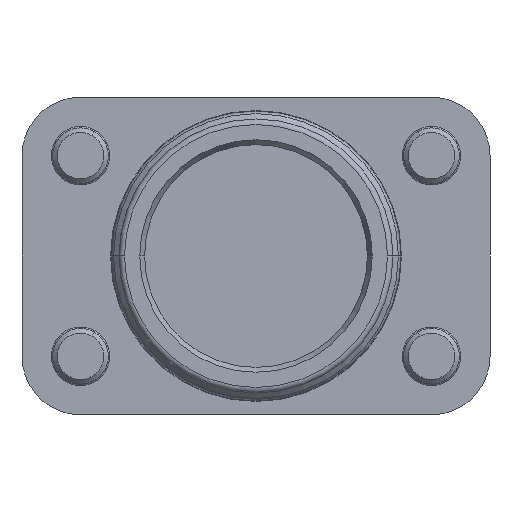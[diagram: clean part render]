
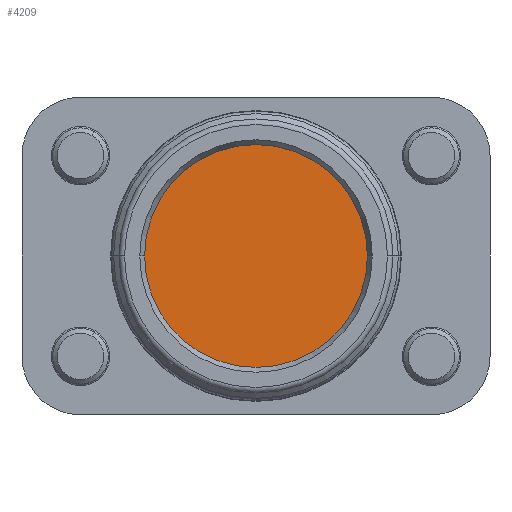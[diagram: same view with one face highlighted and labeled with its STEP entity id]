
A CAD part, front view. The second image highlights one B-rep face of the part: STEP entity #4209.
In plain terms, the highlighted planar face has unit normal (0, -1, 0).
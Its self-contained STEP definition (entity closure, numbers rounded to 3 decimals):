
#2906 = VERTEX_POINT ( 'NONE', #9136 ) ;
#3842 = ORIENTED_EDGE ( 'NONE', *, *, #10287, .T. ) ;
#4209 = ADVANCED_FACE ( 'NONE', ( #10279 ), #11617, .T. ) ;
#4325 = ORIENTED_EDGE ( 'NONE', *, *, #6699, .T. ) ;
#4464 = AXIS2_PLACEMENT_3D ( 'NONE', #8554, #4517, #10544 ) ;
#4517 = DIRECTION ( 'NONE',  ( 0., -1., 0. ) ) ;
#4809 = CARTESIAN_POINT ( 'NONE',  ( 0., 0., 0. ) ) ;
#4965 = DIRECTION ( 'NONE',  ( 0., -1., 0. ) ) ;
#5885 = DIRECTION ( 'NONE',  ( 0., 0., -1. ) ) ;
#6417 = VERTEX_POINT ( 'NONE', #6531 ) ;
#6531 = CARTESIAN_POINT ( 'NONE',  ( 0., 0., 20. ) ) ;
#6699 = EDGE_CURVE ( 'NONE', #2906, #6417, #8971, .T. ) ;
#6721 = DIRECTION ( 'NONE',  ( 0., -1., 0. ) ) ;
#7685 = CARTESIAN_POINT ( 'NONE',  ( 0., 0., 0. ) ) ;
#7734 = DIRECTION ( 'NONE',  ( 0., 0., -1. ) ) ;
#8554 = CARTESIAN_POINT ( 'NONE',  ( 0., 0., 0. ) ) ;
#8865 = EDGE_LOOP ( 'NONE', ( #4325, #3842 ) ) ;
#8971 = CIRCLE ( 'NONE', #12770, 20. ) ;
#9136 = CARTESIAN_POINT ( 'NONE',  ( 0., 0., -20. ) ) ;
#10279 = FACE_OUTER_BOUND ( 'NONE', #8865, .T. ) ;
#10287 = EDGE_CURVE ( 'NONE', #6417, #2906, #11691, .T. ) ;
#10544 = DIRECTION ( 'NONE',  ( 0., 0., -1. ) ) ;
#11617 = PLANE ( 'NONE',  #11941 ) ;
#11691 = CIRCLE ( 'NONE', #4464, 20. ) ;
#11941 = AXIS2_PLACEMENT_3D ( 'NONE', #7685, #6721, #7734 ) ;
#12770 = AXIS2_PLACEMENT_3D ( 'NONE', #4809, #4965, #5885 ) ;
